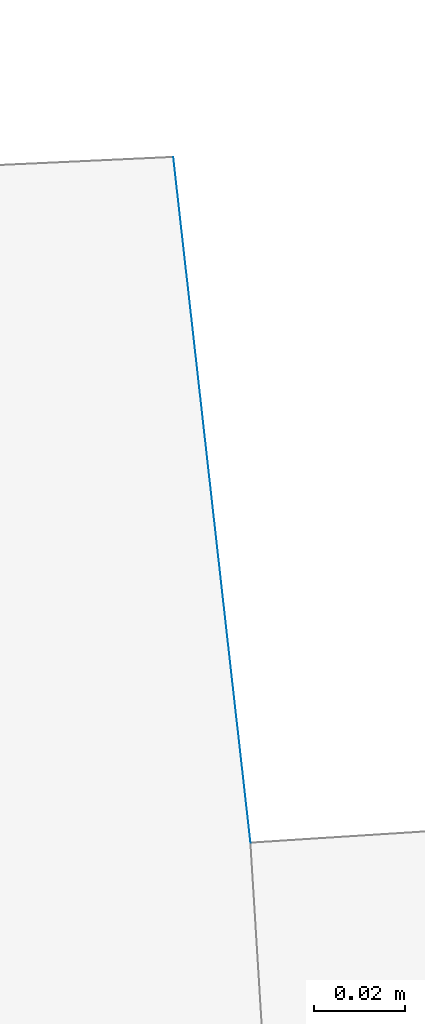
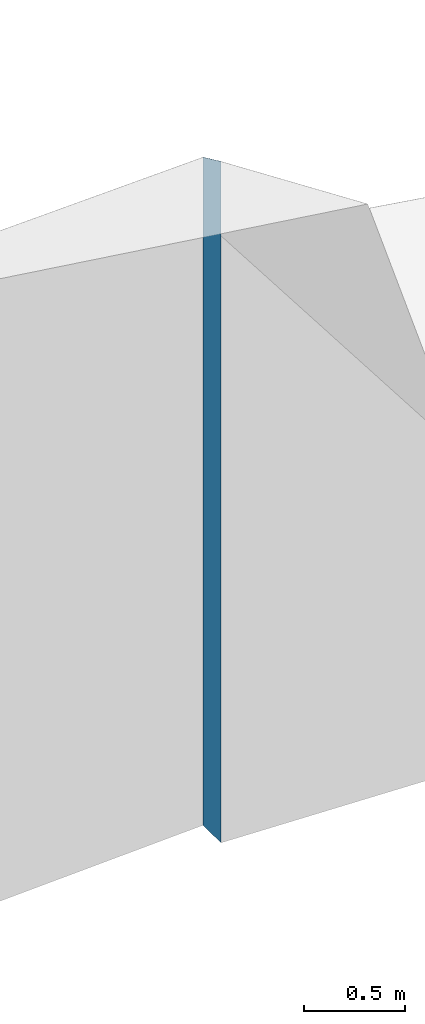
# Not in any storey, part 10 of 57: 1 wall.
"""IFC2X3 building model written with IfcOpenShell, lengths in metres."""

from ifc_helpers import new_model, entity, si_unit, converted_unit, origin, place, context, subcontext, project, spatial, face_set, surface_model, element, save


model = new_model("IFC2X3")

# Units and contexts
model_context = context("Model", 3, precision=1e-05, world=origin())
body_context = subcontext(model_context, "Body", "Model", "MODEL_VIEW")
ifc_project = project(units=[converted_unit("PLANEANGLEUNIT", "DEGREE", entity("IfcRatioMeasure", 0.0174532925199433), si_unit("PLANEANGLEUNIT", "RADIAN"), dimensions=[0, 0, 0, 0, 0, 0, 0]), si_unit("AREAUNIT", "SQUARE_METRE"), si_unit("LENGTHUNIT", "METRE")], contexts=[model_context])

# Site, building
site_placement = place(None, origin())
site = spatial("IfcSite", under=ifc_project, at=site_placement, Name="_site", CompositionType="ELEMENT")
building_placement = place(site_placement, origin())
building = spatial("IfcBuilding", under=site, at=building_placement, Name="_building", CompositionType="ELEMENT")

# Wall
wall_placement = place(building_placement, origin())
element("IfcWall", 1, at=wall_placement, inside=building, Name="Wall", context=body_context, shape_type="SurfaceModel", body=[
    surface_model("IfcFaceBasedSurfaceModel", [(203.671, 67.509, 111.1), (203.688, 67.358, 111.16), (203.688, 67.358, 107.049), (203.671, 67.509, 107.069)], [face_set([[[0, 1, 2, 3]]])]),
])

save(model, "model.ifc")
